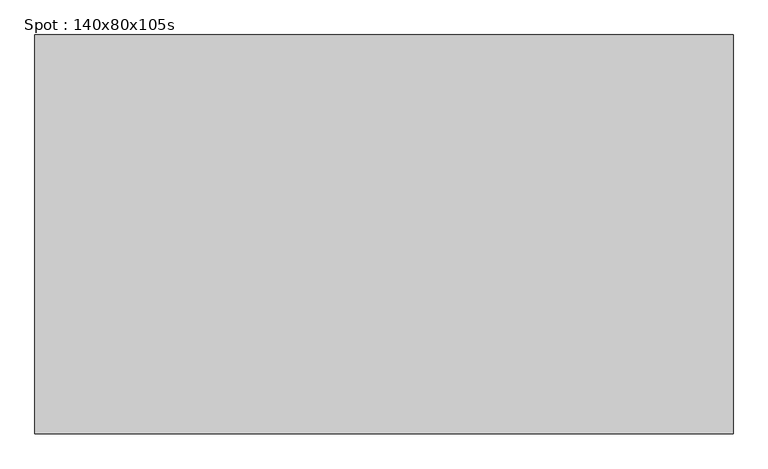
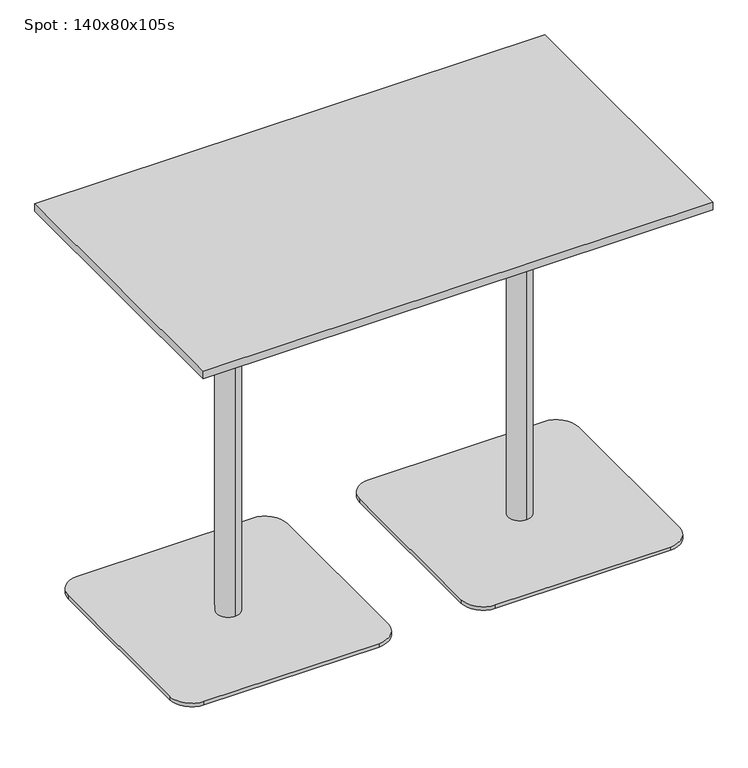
"""IFC4 building model written with IfcOpenShell, lengths in millimetres: furniture geometry, Spot : 140x80x105s."""

from ifc_helpers import new_model, si_unit, point, frame, frame_2d, origin, origin_with_axes, place, context, project, spatial, polyline, circle_curve, trimmed, segment, composite_curve, outline, extrude, source, transform, mapped, element, save
from ifc_brep_helpers import plane_surface, cylinder_surface, revolved_surface, advanced_brep


def spot_140x80x105s_02df7c64(model_context):
    return source(origin(), model_context, "Body", "SolidModel", [
        extrude(outline(polyline([(700.0, 400.0), (700.0, -400.0), (-700.0, -400.0), (-700.0, 400.0), (700.0, 400.0)])), frame((0.0, 0.0, 1028.0), z_axis=(0.0, 0.0, 1.0), x_axis=(1.0, 0.0, 0.0)), (0.0, 0.0, 1.0), 22.0),
        extrude(outline(composite_curve([segment(trimmed(circle_curve(frame_2d((-160.0, 240.0)), 60.0), [point((-160.0, 300.0))], [point((-100.0, 240.0))], False, "CARTESIAN"), True, "CONTINUOUS"), segment(polyline([(-100.0, 240.0), (-100.0, -240.0)]), True, "CONTINUOUS"), segment(trimmed(circle_curve(frame_2d((-160.0, -240.0)), 60.0), [point((-100.0, -240.0))], [point((-160.0, -300.0))], False, "CARTESIAN"), True, "CONTINUOUS"), segment(polyline([(-160.0, -300.0), (-640.0, -300.0)]), True, "CONTINUOUS"), segment(trimmed(circle_curve(frame_2d((-640.0, -240.0)), 60.0), [point((-640.0, -300.0))], [point((-700.0, -240.0))], False, "CARTESIAN"), True, "CONTINUOUS"), segment(polyline([(-700.0, -240.0), (-700.0, 240.0)]), True, "CONTINUOUS"), segment(trimmed(circle_curve(frame_2d((-640.0, 240.0)), 60.0), [point((-700.0, 240.0))], [point((-640.0, 300.0))], False, "CARTESIAN"), True, "CONTINUOUS"), segment(polyline([(-640.0, 300.0), (-160.0, 300.0)]), True, "CONTINUOUS")], self_intersect=False)), origin_with_axes(), (0.0, 0.0, 1.0), 10.0),
        advanced_brep(
        [(-400.0, 32.0, 10.0), (-400.0, -32.0, 10.0), (-400.0, -32.0, 997.406916), (-400.0, 32.0, 997.406916), (-400.0, 0.0, 10.0), (-400.0, 150.0, 1028.0), (-400.0, -150.0, 1028.0), (-400.0, 0.0, 1028.0), (-400.0, 150.0, 1016.7213673), (-400.0, -150.0, 1016.7213673)],
        [
            (0, 1, circle_curve(frame((-400.0, 0.0, 10.0), z_axis=(0.0, 0.0, 1.0), x_axis=(0.0, -1.0, 0.0)), 32.0)),
            (1, 2),
            (2, 3, circle_curve(frame((-400.0, 0.0, 997.406916), z_axis=(0.0, 0.0, -1.0), x_axis=(0.0, -1.0, 0.0)), 32.0)),
            (3, 0),
            (1, 0, circle_curve(frame((-400.0, 0.0, 10.0), z_axis=(0.0, 0.0, 1.0), x_axis=(0.0, -1.0, 0.0)), 32.0)),
            (3, 2, circle_curve(frame((-400.0, 0.0, 997.406916), z_axis=(0.0, 0.0, -1.0), x_axis=(0.0, -1.0, 0.0)), 32.0)),
            (4, 1),
            (0, 4),
            (5, 6, circle_curve(frame((-400.0, 0.0, 1028.0), z_axis=(0.0, 0.0, 1.0), x_axis=(0.0, -1.0, 0.0)), 150.0)),
            (6, 7),
            (7, 5),
            (6, 5, circle_curve(frame((-400.0, 0.0, 1028.0), z_axis=(0.0, 0.0, 1.0), x_axis=(0.0, -1.0, 0.0)), 150.0)),
            (8, 9, circle_curve(frame((-400.0, 0.0, 1016.7213673), z_axis=(0.0, 0.0, 1.0), x_axis=(0.0, -1.0, 0.0)), 150.0)),
            (9, 6),
            (5, 8),
            (9, 8, circle_curve(frame((-400.0, 0.0, 1016.7213673), z_axis=(0.0, 0.0, 1.0), x_axis=(0.0, -1.0, 0.0)), 150.0)),
            (2, 9),
            (8, 3),
        ],
        [
            cylinder_surface(frame((-400.0, 0.0, 1390.0), z_axis=(0.0, 0.0, -1.0), x_axis=(0.0, -1.0, 0.0)), 32.0),
            plane_surface(frame((-400.0, 0.0, 10.0), z_axis=(0.0, 0.0, -1.0), x_axis=(0.0, -1.0, 0.0))),
            plane_surface(frame((-400.0, 0.0, 1028.0), z_axis=(0.0, 0.0, 1.0), x_axis=(0.0, -1.0, 0.0))),
            cylinder_surface(frame((-400.0, 0.0, 1390.0), z_axis=(0.0, 0.0, -1.0), x_axis=(0.0, -1.0, 0.0)), 150.0),
            revolved_surface(polyline([(-400.0, -150.0, 1016.7213673), (-400.0, -32.0, 997.406916)]), (-400.0, 0.0, 1390.0), (0.0, 0.0, -1.0)),
        ],
        [
            (0, [[1, 2, 3, 4]]),
            (0, [[5, -4, 6, -2]]),
            (1, [[7, -1, 8]]),
            (1, [[-8, -5, -7]]),
            (2, [[9, 10, 11]]),
            (2, [[12, -11, -10]]),
            (3, [[13, 14, -9, 15]]),
            (3, [[16, -15, -12, -14]]),
            (4, [[-3, 17, -13, 18]]),
            (4, [[-6, -18, -16, -17]]),
        ],
    ),
        extrude(outline(polyline([(-400.0, 0.0), (-420.0, 0.0), (-420.0, 20.0), (-400.0, 20.0), (-400.0, 0.0)])), origin_with_axes(), (0.0, 0.0, 1.0), 10.0),
        extrude(outline(composite_curve([segment(trimmed(circle_curve(frame_2d((640.0, 240.0)), 60.0), [point((640.0, 300.0))], [point((700.0, 240.0))], False, "CARTESIAN"), True, "CONTINUOUS"), segment(polyline([(700.0, 240.0), (700.0, -240.0)]), True, "CONTINUOUS"), segment(trimmed(circle_curve(frame_2d((640.0, -240.0)), 60.0), [point((700.0, -240.0))], [point((640.0, -300.0))], False, "CARTESIAN"), True, "CONTINUOUS"), segment(polyline([(640.0, -300.0), (160.0, -300.0)]), True, "CONTINUOUS"), segment(trimmed(circle_curve(frame_2d((160.0, -240.0)), 60.0), [point((160.0, -300.0))], [point((100.0, -240.0))], False, "CARTESIAN"), True, "CONTINUOUS"), segment(polyline([(100.0, -240.0), (100.0, 240.0)]), True, "CONTINUOUS"), segment(trimmed(circle_curve(frame_2d((160.0, 240.0)), 60.0), [point((100.0, 240.0))], [point((160.0, 300.0))], False, "CARTESIAN"), True, "CONTINUOUS"), segment(polyline([(160.0, 300.0), (640.0, 300.0)]), True, "CONTINUOUS")], self_intersect=False)), origin_with_axes(), (0.0, 0.0, 1.0), 10.0),
        advanced_brep(
        [(400.0, 32.0, 10.0), (400.0, -32.0, 10.0), (400.0, -32.0, 997.406916), (400.0, 32.0, 997.406916), (400.0, 0.0, 10.0), (400.0, 150.0, 1028.0), (400.0, -150.0, 1028.0), (400.0, 0.0, 1028.0), (400.0, 150.0, 1016.7213673), (400.0, -150.0, 1016.7213673)],
        [
            (0, 1, circle_curve(frame((400.0, 0.0, 10.0), z_axis=(0.0, 0.0, 1.0), x_axis=(0.0, -1.0, 0.0)), 32.0)),
            (1, 2),
            (2, 3, circle_curve(frame((400.0, 0.0, 997.406916), z_axis=(0.0, 0.0, -1.0), x_axis=(0.0, -1.0, 0.0)), 32.0)),
            (3, 0),
            (1, 0, circle_curve(frame((400.0, 0.0, 10.0), z_axis=(0.0, 0.0, 1.0), x_axis=(0.0, -1.0, 0.0)), 32.0)),
            (3, 2, circle_curve(frame((400.0, 0.0, 997.406916), z_axis=(0.0, 0.0, -1.0), x_axis=(0.0, -1.0, 0.0)), 32.0)),
            (4, 1),
            (0, 4),
            (5, 6, circle_curve(frame((400.0, 0.0, 1028.0), z_axis=(0.0, 0.0, 1.0), x_axis=(0.0, -1.0, 0.0)), 150.0)),
            (6, 7),
            (7, 5),
            (6, 5, circle_curve(frame((400.0, 0.0, 1028.0), z_axis=(0.0, 0.0, 1.0), x_axis=(0.0, -1.0, 0.0)), 150.0)),
            (8, 9, circle_curve(frame((400.0, 0.0, 1016.7213673), z_axis=(0.0, 0.0, 1.0), x_axis=(0.0, -1.0, 0.0)), 150.0)),
            (9, 6),
            (5, 8),
            (9, 8, circle_curve(frame((400.0, 0.0, 1016.7213673), z_axis=(0.0, 0.0, 1.0), x_axis=(0.0, -1.0, 0.0)), 150.0)),
            (2, 9),
            (8, 3),
        ],
        [
            cylinder_surface(frame((400.0, 0.0, 1390.0), z_axis=(0.0, 0.0, -1.0), x_axis=(0.0, -1.0, 0.0)), 32.0),
            plane_surface(frame((400.0, 0.0, 10.0), z_axis=(0.0, 0.0, -1.0), x_axis=(0.0, -1.0, 0.0))),
            plane_surface(frame((400.0, 0.0, 1028.0), z_axis=(0.0, 0.0, 1.0), x_axis=(0.0, -1.0, 0.0))),
            cylinder_surface(frame((400.0, 0.0, 1390.0), z_axis=(0.0, 0.0, -1.0), x_axis=(0.0, -1.0, 0.0)), 150.0),
            revolved_surface(polyline([(400.0, -150.0, 1016.7213673), (400.0, -32.0, 997.406916)]), (400.0, 0.0, 1390.0), (0.0, 0.0, -1.0)),
        ],
        [
            (0, [[1, 2, 3, 4]]),
            (0, [[5, -4, 6, -2]]),
            (1, [[7, -1, 8]]),
            (1, [[-8, -5, -7]]),
            (2, [[9, 10, 11]]),
            (2, [[12, -11, -10]]),
            (3, [[13, 14, -9, 15]]),
            (3, [[16, -15, -12, -14]]),
            (4, [[-3, 17, -13, 18]]),
            (4, [[-6, -18, -16, -17]]),
        ],
    ),
        extrude(outline(polyline([(400.0, 0.0), (380.0, 0.0), (380.0, 20.0), (400.0, 20.0), (400.0, 0.0)])), origin_with_axes(), (0.0, 0.0, 1.0), 10.0),
    ])


if __name__ == "__main__":
    model = new_model("IFC4")
    model_context = context("Model", 3, world=origin())
    ifc_project = project(units=[si_unit("LENGTHUNIT", "METRE", prefix="MILLI")], contexts=[model_context])
    site = spatial("IfcSite", under=ifc_project)
    building = spatial("IfcBuilding", under=site)
    placement = place(None, origin())
    spot_140x80x105s_shape = spot_140x80x105s_02df7c64(model_context)
    element("IfcFurniture", 1, ObjectType="Spot : 140x80x105s", at=placement, inside=building, context=model_context, shape_type="MappedRepresentation", body=[
        mapped(spot_140x80x105s_shape, transform((0.0, 0.0, 0.0), x_axis=(1.0, 0.0, 0.0), y_axis=(0.0, 1.0, 0.0), z_axis=(0.0, 0.0, 1.0))),
    ])
    save(model, "model.ifc")
